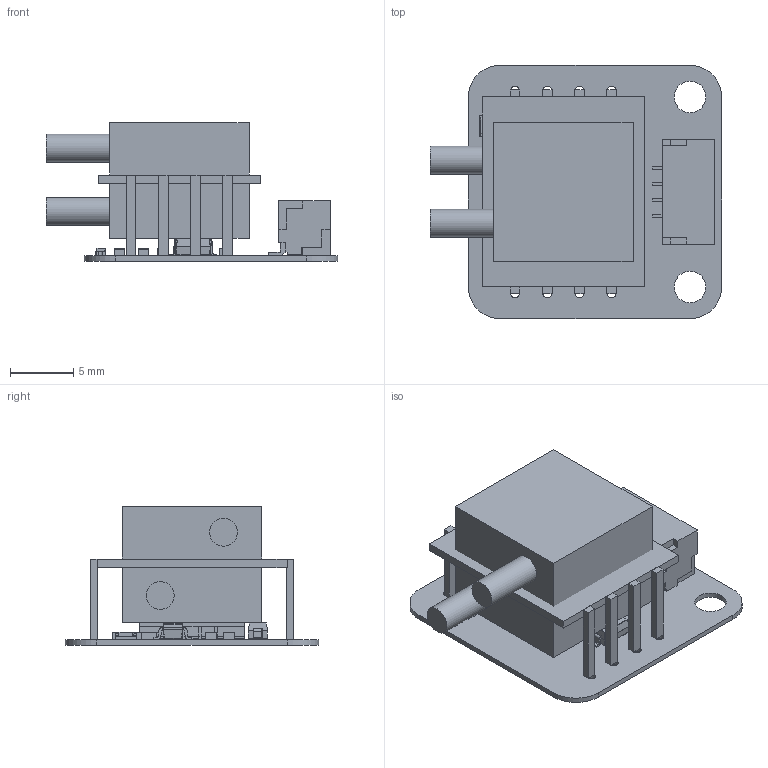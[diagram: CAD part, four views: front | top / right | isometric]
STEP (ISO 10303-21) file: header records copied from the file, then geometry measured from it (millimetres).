
FILE_DESCRIPTION(('Open CASCADE Model'),'2;1');
FILE_NAME('Open CASCADE Shape Model','2022-03-14T11:34:41',('Author'),( 'Open CASCADE'),'Open CASCADE STEP processor 6.8','Open CASCADE 6.8' ,'Unknown');
FILE_SCHEMA(('AUTOMOTIVE_DESIGN { 1 0 10303 214 1 1 1 1 }'));
Products named in the file (1): PCB
Bounding box: 23 x 20 x 10.91 mm (x, y, z)
Volume: 1532.9 mm3; surface area: 2483.8 mm2
Topology: 38 solids, 440 shells, 843 faces, 3254 edges, 2872 vertices
Faces by surface type: plane 543, bspline 156, cylinder 130, sphere 14
Full cylindrical faces by diameter (mm): 0.7 x8, 2.2 x2, 2.5 x2
Entity records: 49756 total; most frequent: CARTESIAN_POINT 21716, ORIENTED_EDGE 4282, DIRECTION 4118, EDGE_CURVE 3232, VERTEX_POINT 2872, LINE 1958, VECTOR 1958, AXIS2_PLACEMENT_3D 1080
